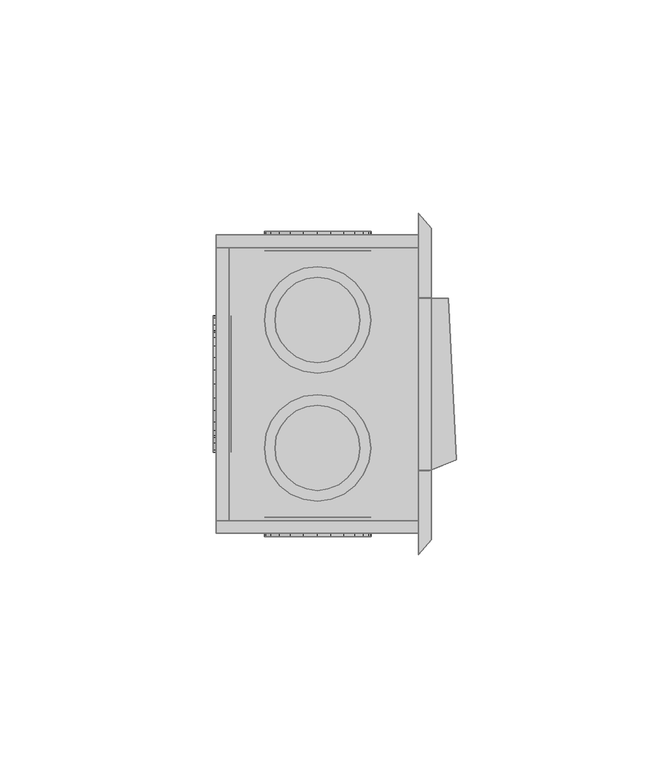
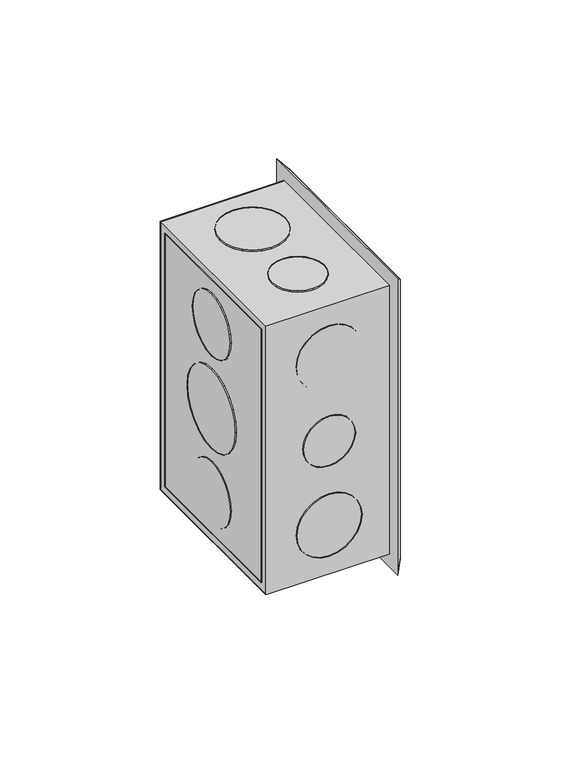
"""IFC4 building model written with IfcOpenShell, lengths in millimetres: proxy geometry,  210949 :  210949."""

from ifc_helpers import new_model, si_unit, origin, place, context, project, spatial, triangles, source, transform, mapped, element, save


def generic_models_a21df155(model_context):
    return source(origin(), model_context, "Body", "Tessellation", [
        triangles([(6623.3997849, 27447.1990723, 1254.3000378), (6623.3997849, 27444.1992554, 1148.7000154), (6623.3997849, 27447.1990723, 1145.6999805), (6623.3997849, 27444.1992554, 1251.2999302), (6623.3997849, 27377.2010193, 1254.3000378), (6623.3997849, 27380.2008362, 1251.2999302), (6623.3997849, 27377.2010193, 1145.6999805), (6623.3997849, 27380.2008362, 1148.7000154), (6575.8997772, 27444.1992554, 1251.2999302), (6575.8997772, 27444.1992554, 1148.7000154), (6575.8997772, 27377.2010193, 1254.3000378), (6575.8997772, 27377.2010193, 1145.6999805), (6575.8997772, 27380.2008362, 1251.2999302), (6575.8997772, 27447.1990723, 1145.6999805), (6575.8997772, 27380.2008362, 1148.7000154), (6575.8997772, 27447.1990723, 1254.3000378), (6578.9001755, 27444.1992554, 1251.2999302), (6578.9001755, 27380.2008362, 1148.7000154), (6578.9001755, 27444.1992554, 1148.7000154), (6578.9001755, 27380.2008362, 1251.2999302), (6579.400145, 27426.1003601, 1191.9999887), (6579.400145, 27420.2007202, 1186.0999855), (6579.400145, 27423.5005188, 1188.6999722), (6579.400145, 27427.7002625, 1195.8999687), (6579.400145, 27416.4009521, 1184.5000105), (6579.400145, 27428.2002319, 1200.0000092), (6579.400145, 27412.1988831, 1183.9999683), (6579.400145, 27427.7002625, 1204.0999769), (6579.400145, 27408.0991333, 1184.5000105), (6579.400145, 27426.1003601, 1208.0000296), (6579.400145, 27404.1993713, 1186.0999855), (6579.400145, 27423.5005188, 1211.2999735), (6579.400145, 27400.8995728, 1188.6999722), (6579.400145, 27420.2007202, 1213.9000328), (6579.400145, 27398.3997253, 1191.9999887), (6579.400145, 27416.4009521, 1215.5000078), (6579.400145, 27396.799823, 1195.8999687), (6579.400145, 27412.1988831, 1215.9999773), (6579.400145, 27396.1998596, 1200.0000092), (6579.400145, 27408.0991333, 1215.5000078), (6579.400145, 27396.799823, 1204.0999769), (6579.400145, 27404.1993713, 1213.9000328), (6579.400145, 27398.3997253, 1208.0000296), (6579.400145, 27400.8995728, 1211.2999735), (6575.1998199, 27408.0991333, 1184.5000105), (6575.1998199, 27412.1988831, 1183.9999683), (6575.1998199, 27416.4009521, 1184.5000105), (6575.1998199, 27420.2007202, 1186.0999855), (6575.1998199, 27423.5005188, 1188.6999722), (6575.1998199, 27426.1003601, 1191.9999887), (6575.1998199, 27427.7002625, 1195.8999687), (6575.1998199, 27428.2002319, 1200.0000092), (6575.1998199, 27427.7002625, 1204.0999769), (6575.1998199, 27426.1003601, 1208.0000296), (6575.1998199, 27423.5005188, 1211.2999735), (6575.1998199, 27420.2007202, 1213.9000328), (6575.1998199, 27416.4009521, 1215.5000078), (6575.1998199, 27412.1988831, 1215.9999773), (6575.1998199, 27408.0991333, 1215.5000078), (6575.1998199, 27404.1993713, 1213.9000328), (6575.1998199, 27400.8995728, 1211.2999735), (6575.1998199, 27398.3997253, 1208.0000296), (6575.1998199, 27396.799823, 1204.0999769), (6575.1998199, 27396.1998596, 1200.0000092), (6575.1998199, 27396.799823, 1195.8999687), (6575.1998199, 27398.3997253, 1191.9999887), (6575.1998199, 27400.8995728, 1188.6999722), (6575.1998199, 27404.1993713, 1186.0999855), (6579.400145, 27423.1005432, 1227.8000565), (6579.400145, 27418.500824, 1223.2000465), (6579.400145, 27421.1006653, 1225.2000698), (6579.400145, 27424.30047, 1230.8000187), (6579.400145, 27415.5010071, 1221.8999805), (6579.400145, 27424.7004456, 1233.9999687), (6579.400145, 27412.1988831, 1221.500005), (6579.400145, 27424.30047, 1237.2000641), (6579.400145, 27408.9990784, 1221.8999805), (6579.400145, 27423.1005432, 1240.3000202), (6579.400145, 27405.9992615, 1223.2000465), (6579.400145, 27421.1006653, 1242.800013), (6579.400145, 27403.3994202, 1225.2000698), (6579.400145, 27401.3995422, 1227.8000565), (6579.400145, 27418.500824, 1244.8000362), (6579.400145, 27415.5010071, 1246.0999569), (6579.400145, 27400.1996155, 1230.8000187), (6579.400145, 27412.1988831, 1246.4999325), (6579.400145, 27399.699646, 1233.9999687), (6579.400145, 27408.9990784, 1246.0999569), (6579.400145, 27400.1996155, 1237.2000641), (6579.400145, 27401.3995422, 1240.3000202), (6579.400145, 27405.9992615, 1244.8000362), (6579.400145, 27403.3994202, 1242.800013), (6575.1998199, 27400.1996155, 1230.8000187), (6575.1998199, 27401.3995422, 1227.8000565), (6575.1998199, 27403.3994202, 1225.2000698), (6575.1998199, 27405.9992615, 1223.2000465), (6575.1998199, 27408.9990784, 1221.8999805), (6575.1998199, 27412.1988831, 1221.500005), (6575.1998199, 27415.5010071, 1221.8999805), (6575.1998199, 27418.500824, 1223.2000465), (6575.1998199, 27421.1006653, 1225.2000698), (6575.1998199, 27423.1005432, 1227.8000565), (6575.1998199, 27424.30047, 1230.8000187), (6575.1998199, 27424.7004456, 1233.9999687), (6575.1998199, 27424.30047, 1237.2000641), (6575.1998199, 27423.1005432, 1240.3000202), (6575.1998199, 27421.1006653, 1242.800013), (6575.1998199, 27418.500824, 1244.8000362), (6575.1998199, 27415.5010071, 1246.0999569), (6575.1998199, 27412.1988831, 1246.4999325), (6575.1998199, 27408.9990784, 1246.0999569), (6575.1998199, 27405.9992615, 1244.8000362), (6575.1998199, 27403.3994202, 1242.800013), (6575.1998199, 27401.3995422, 1240.3000202), (6575.1998199, 27400.1996155, 1237.2000641), (6575.1998199, 27399.699646, 1233.9999687), (6575.1998199, 27418.500824, 1155.1999821), (6575.1998199, 27423.1005432, 1159.6999981), (6575.1998199, 27421.1006653, 1157.2000053), (6575.1998199, 27415.5010071, 1153.8999887), (6575.1998199, 27424.30047, 1162.8000269), (6575.1998199, 27412.1988831, 1153.5000132), (6575.1998199, 27424.7004456, 1165.9999769), (6575.1998199, 27408.9990784, 1153.8999887), (6575.1998199, 27424.30047, 1169.1999996), (6575.1998199, 27405.9992615, 1155.1999821), (6575.1998199, 27423.1005432, 1172.2000345), (6575.1998199, 27403.3994202, 1157.2000053), (6575.1998199, 27421.1006653, 1174.8000212), (6575.1998199, 27401.3995422, 1159.6999981), (6575.1998199, 27418.500824, 1176.7999718), (6575.1998199, 27400.1996155, 1162.8000269), (6575.1998199, 27415.5010071, 1178.0999651), (6575.1998199, 27412.1988831, 1178.5000134), (6575.1998199, 27399.699646, 1165.9999769), (6575.1998199, 27400.1996155, 1169.1999996), (6575.1998199, 27408.9990784, 1178.0999651), (6575.1998199, 27401.3995422, 1172.2000345), (6575.1998199, 27405.9992615, 1176.7999718), (6575.1998199, 27403.3994202, 1174.8000212), (6579.400145, 27415.5010071, 1178.0999651), (6579.400145, 27412.1988831, 1178.5000134), (6579.400145, 27418.500824, 1176.7999718), (6579.400145, 27421.1006653, 1174.8000212), (6579.400145, 27423.1005432, 1172.2000345), (6579.400145, 27424.30047, 1169.1999996), (6579.400145, 27424.7004456, 1165.9999769), (6579.400145, 27424.30047, 1162.8000269), (6579.400145, 27423.1005432, 1159.6999981), (6579.400145, 27421.1006653, 1157.2000053), (6579.400145, 27418.500824, 1155.1999821), (6579.400145, 27415.5010071, 1153.8999887), (6579.400145, 27412.1988831, 1153.5000132), (6579.400145, 27408.9990784, 1153.8999887), (6579.400145, 27405.9992615, 1155.1999821), (6579.400145, 27403.3994202, 1157.2000053), (6579.400145, 27401.3995422, 1159.6999981), (6579.400145, 27400.1996155, 1162.8000269), (6579.400145, 27399.699646, 1165.9999769), (6579.400145, 27400.1996155, 1169.1999996), (6579.400145, 27401.3995422, 1172.2000345), (6579.400145, 27403.3994202, 1174.8000212), (6579.400145, 27405.9992615, 1176.7999718), (6579.400145, 27408.9990784, 1178.0999651), (6594.6997925, 27443.3993042, 1191.3000315), (6591.0000183, 27443.3993042, 1195.0000237), (6592.5999207, 27443.3993042, 1192.9000065), (6590.0000793, 27443.3993042, 1197.4000225), (6597.1002274, 27443.3993042, 1190.3000198), (6589.7000977, 27443.3993042, 1200.0000092), (6599.7000687, 27443.3993042, 1189.9999655), (6602.1999161, 27443.3993042, 1190.3000198), (6590.0000793, 27443.3993042, 1202.5999958), (6591.0000183, 27443.3993042, 1204.9999947), (6604.6997635, 27443.3993042, 1191.3000315), (6592.5999207, 27443.3993042, 1207.1000118), (6606.7002228, 27443.3993042, 1192.9000065), (6608.3001251, 27443.3993042, 1195.0000237), (6594.6997925, 27443.3993042, 1208.6999868), (6609.3000641, 27443.3993042, 1197.4000225), (6597.1002274, 27443.3993042, 1209.6999985), (6609.7000397, 27443.3993042, 1200.0000092), (6599.7000687, 27443.3993042, 1209.9999802), (6609.3000641, 27443.3993042, 1202.5999958), (6602.1999161, 27443.3993042, 1209.6999985), (6604.6997635, 27443.3993042, 1208.6999868), (6608.3001251, 27443.3993042, 1204.9999947), (6606.7002228, 27443.3993042, 1207.1000118), (6599.7000687, 27447.9990234, 1189.9999655), (6597.1002274, 27447.9990234, 1190.3000198), (6602.1999161, 27447.9990234, 1190.3000198), (6604.6997635, 27447.9990234, 1191.3000315), (6606.7002228, 27447.9990234, 1192.9000065), (6608.3001251, 27447.9990234, 1195.0000237), (6609.3000641, 27447.9990234, 1197.4000225), (6609.7000397, 27447.9990234, 1200.0000092), (6609.3000641, 27447.9990234, 1202.5999958), (6608.3001251, 27447.9990234, 1204.9999947), (6606.7002228, 27447.9990234, 1207.1000118), (6604.6997635, 27447.9990234, 1208.6999868), (6602.1999161, 27447.9990234, 1209.6999985), (6599.7000687, 27447.9990234, 1209.9999802), (6597.1002274, 27447.9990234, 1209.6999985), (6594.6997925, 27447.9990234, 1208.6999868), (6592.5999207, 27447.9990234, 1207.1000118), (6591.0000183, 27447.9990234, 1204.9999947), (6590.0000793, 27447.9990234, 1202.5999958), (6589.7000977, 27447.9990234, 1200.0000092), (6590.0000793, 27447.9990234, 1197.4000225), (6591.0000183, 27447.9990234, 1195.0000237), (6592.5999207, 27447.9990234, 1192.9000065), (6594.6997925, 27447.9990234, 1191.3000315), (6593.3998718, 27443.3993042, 1223.2000465), (6588.8001526, 27443.3993042, 1227.8000565), (6590.8000305, 27443.3993042, 1225.2000698), (6596.4002701, 27443.3993042, 1221.8999805), (6587.6002258, 27443.3993042, 1230.8000187), (6587.2002502, 27443.3993042, 1233.9999687), (6599.7000687, 27443.3993042, 1221.500005), (6602.8998734, 27443.3993042, 1221.8999805), (6587.6002258, 27443.3993042, 1237.2000641), (6588.8001526, 27443.3993042, 1240.3000202), (6605.9002716, 27443.3993042, 1223.2000465), (6608.5001129, 27443.3993042, 1225.2000698), (6590.8000305, 27443.3993042, 1242.800013), (6610.4999908, 27443.3993042, 1227.8000565), (6593.3998718, 27443.3993042, 1244.8000362), (6611.6999176, 27443.3993042, 1230.8000187), (6596.4002701, 27443.3993042, 1246.0999569), (6612.1998871, 27443.3993042, 1233.9999687), (6599.7000687, 27443.3993042, 1246.4999325), (6611.6999176, 27443.3993042, 1237.2000641), (6602.8998734, 27443.3993042, 1246.0999569), (6610.4999908, 27443.3993042, 1240.3000202), (6605.9002716, 27443.3993042, 1244.8000362), (6608.5001129, 27443.3993042, 1242.800013), (6599.7000687, 27447.9990234, 1221.500005), (6596.4002701, 27447.9990234, 1221.8999805), (6602.8998734, 27447.9990234, 1221.8999805), (6605.9002716, 27447.9990234, 1223.2000465), (6608.5001129, 27447.9990234, 1225.2000698), (6610.4999908, 27447.9990234, 1227.8000565), (6611.6999176, 27447.9990234, 1230.8000187), (6612.1998871, 27447.9990234, 1233.9999687), (6611.6999176, 27447.9990234, 1237.2000641), (6610.4999908, 27447.9990234, 1240.3000202), (6608.5001129, 27447.9990234, 1242.800013), (6605.9002716, 27447.9990234, 1244.8000362), (6602.8998734, 27447.9990234, 1246.0999569), (6599.7000687, 27447.9990234, 1246.4999325), (6596.4002701, 27447.9990234, 1246.0999569), (6593.3998718, 27447.9990234, 1244.8000362), (6590.8000305, 27447.9990234, 1242.800013), (6588.8001526, 27447.9990234, 1240.3000202), (6587.6002258, 27447.9990234, 1237.2000641), (6587.2002502, 27447.9990234, 1233.9999687), (6587.6002258, 27447.9990234, 1230.8000187), (6588.8001526, 27447.9990234, 1227.8000565), (6590.8000305, 27447.9990234, 1225.2000698), (6593.3998718, 27447.9990234, 1223.2000465), (6588.8001526, 27447.9990234, 1159.6999981), (6593.3998718, 27447.9990234, 1155.1999821), (6590.8000305, 27447.9990234, 1157.2000053), (6587.6002258, 27447.9990234, 1162.8000269), (6596.4002701, 27447.9990234, 1153.8999887), (6587.2002502, 27447.9990234, 1165.9999769), (6599.7000687, 27447.9990234, 1153.5000132), (6587.6002258, 27447.9990234, 1169.1999996), (6602.8998734, 27447.9990234, 1153.8999887), (6588.8001526, 27447.9990234, 1172.2000345), (6605.9002716, 27447.9990234, 1155.1999821), (6590.8000305, 27447.9990234, 1174.8000212), (6608.5001129, 27447.9990234, 1157.2000053), (6593.3998718, 27447.9990234, 1176.7999718), (6610.4999908, 27447.9990234, 1159.6999981), (6596.4002701, 27447.9990234, 1178.0999651), (6611.6999176, 27447.9990234, 1162.8000269), (6599.7000687, 27447.9990234, 1178.5000134), (6612.1998871, 27447.9990234, 1165.9999769), (6602.8998734, 27447.9990234, 1178.0999651), (6611.6999176, 27447.9990234, 1169.1999996), (6605.9002716, 27447.9990234, 1176.7999718), (6610.4999908, 27447.9990234, 1172.2000345), (6608.5001129, 27447.9990234, 1174.8000212), (6596.4002701, 27443.3993042, 1178.0999651), (6599.7000687, 27443.3993042, 1178.5000134), (6602.8998734, 27443.3993042, 1178.0999651), (6605.9002716, 27443.3993042, 1176.7999718), (6608.5001129, 27443.3993042, 1174.8000212), (6610.4999908, 27443.3993042, 1172.2000345), (6611.6999176, 27443.3993042, 1169.1999996), (6612.1998871, 27443.3993042, 1165.9999769), (6611.6999176, 27443.3993042, 1162.8000269), (6610.4999908, 27443.3993042, 1159.6999981), (6608.5001129, 27443.3993042, 1157.2000053), (6605.9002716, 27443.3993042, 1155.1999821), (6602.8998734, 27443.3993042, 1153.8999887), (6599.7000687, 27443.3993042, 1153.5000132), (6596.4002701, 27443.3993042, 1153.8999887), (6593.3998718, 27443.3993042, 1155.1999821), (6590.8000305, 27443.3993042, 1157.2000053), (6588.8001526, 27443.3993042, 1159.6999981), (6587.6002258, 27443.3993042, 1162.8000269), (6587.2002502, 27443.3993042, 1165.9999769), (6587.6002258, 27443.3993042, 1169.1999996), (6588.8001526, 27443.3993042, 1172.2000345), (6590.8000305, 27443.3993042, 1174.8000212), (6593.3998718, 27443.3993042, 1176.7999718), (6591.0000183, 27381.0007874, 1195.0000237), (6594.6997925, 27381.0007874, 1191.3000315), (6592.5999207, 27381.0007874, 1192.9000065), (6590.0000793, 27381.0007874, 1197.4000225), (6597.1002274, 27381.0007874, 1190.3000198), (6589.7000977, 27381.0007874, 1200.0000092), (6599.7000687, 27381.0007874, 1189.9999655), (6590.0000793, 27381.0007874, 1202.5999958), (6602.1999161, 27381.0007874, 1190.3000198), (6591.0000183, 27381.0007874, 1204.9999947), (6604.6997635, 27381.0007874, 1191.3000315), (6592.5999207, 27381.0007874, 1207.1000118), (6606.7002228, 27381.0007874, 1192.9000065), (6594.6997925, 27381.0007874, 1208.6999868), (6608.3001251, 27381.0007874, 1195.0000237), (6597.1002274, 27381.0007874, 1209.6999985), (6609.3000641, 27381.0007874, 1197.4000225), (6609.7000397, 27381.0007874, 1200.0000092), (6599.7000687, 27381.0007874, 1209.9999802), (6602.1999161, 27381.0007874, 1209.6999985), (6609.3000641, 27381.0007874, 1202.5999958), (6604.6997635, 27381.0007874, 1208.6999868), (6608.3001251, 27381.0007874, 1204.9999947), (6606.7002228, 27381.0007874, 1207.1000118), (6597.1002274, 27376.4010681, 1209.6999985), (6599.7000687, 27376.4010681, 1209.9999802), (6602.1999161, 27376.4010681, 1209.6999985), (6604.6997635, 27376.4010681, 1208.6999868), (6606.7002228, 27376.4010681, 1207.1000118), (6608.3001251, 27376.4010681, 1204.9999947), (6609.3000641, 27376.4010681, 1202.5999958), (6609.7000397, 27376.4010681, 1200.0000092), (6609.3000641, 27376.4010681, 1197.4000225), (6608.3001251, 27376.4010681, 1195.0000237), (6606.7002228, 27376.4010681, 1192.9000065), (6604.6997635, 27376.4010681, 1191.3000315), (6602.1999161, 27376.4010681, 1190.3000198), (6599.7000687, 27376.4010681, 1189.9999655), (6597.1002274, 27376.4010681, 1190.3000198), (6594.6997925, 27376.4010681, 1191.3000315), (6592.5999207, 27376.4010681, 1192.9000065), (6591.0000183, 27376.4010681, 1195.0000237), (6590.0000793, 27376.4010681, 1197.4000225), (6589.7000977, 27376.4010681, 1200.0000092), (6590.0000793, 27376.4010681, 1202.5999958), (6591.0000183, 27376.4010681, 1204.9999947), (6592.5999207, 27376.4010681, 1207.1000118), (6594.6997925, 27376.4010681, 1208.6999868), (6588.8001526, 27381.0007874, 1159.6999981), (6593.3998718, 27381.0007874, 1155.1999821), (6590.8000305, 27381.0007874, 1157.2000053), (6587.6002258, 27381.0007874, 1162.8000269), (6596.4002701, 27381.0007874, 1153.8999887), (6587.2002502, 27381.0007874, 1165.9999769), (6599.7000687, 27381.0007874, 1153.5000132), (6587.6002258, 27381.0007874, 1169.1999996), (6602.8998734, 27381.0007874, 1153.8999887), (6588.8001526, 27381.0007874, 1172.2000345), (6605.9002716, 27381.0007874, 1155.1999821), (6590.8000305, 27381.0007874, 1174.8000212), (6608.5001129, 27381.0007874, 1157.2000053), (6593.3998718, 27381.0007874, 1176.7999718), (6610.4999908, 27381.0007874, 1159.6999981), (6596.4002701, 27381.0007874, 1178.0999651), (6611.6999176, 27381.0007874, 1162.8000269), (6599.7000687, 27381.0007874, 1178.5000134), (6612.1998871, 27381.0007874, 1165.9999769), (6602.8998734, 27381.0007874, 1178.0999651), (6611.6999176, 27381.0007874, 1169.1999996), (6605.9002716, 27381.0007874, 1176.7999718), (6610.4999908, 27381.0007874, 1172.2000345), (6608.5001129, 27381.0007874, 1174.8000212), (6596.4002701, 27376.4010681, 1178.0999651), (6599.7000687, 27376.4010681, 1178.5000134), (6602.8998734, 27376.4010681, 1178.0999651), (6605.9002716, 27376.4010681, 1176.7999718), (6608.5001129, 27376.4010681, 1174.8000212), (6610.4999908, 27376.4010681, 1172.2000345), (6611.6999176, 27376.4010681, 1169.1999996), (6612.1998871, 27376.4010681, 1165.9999769), (6611.6999176, 27376.4010681, 1162.8000269), (6610.4999908, 27376.4010681, 1159.6999981), (6608.5001129, 27376.4010681, 1157.2000053), (6605.9002716, 27376.4010681, 1155.1999821), (6602.8998734, 27376.4010681, 1153.8999887), (6599.7000687, 27376.4010681, 1153.5000132), (6596.4002701, 27376.4010681, 1153.8999887), (6593.3998718, 27376.4010681, 1155.1999821), (6590.8000305, 27376.4010681, 1157.2000053), (6588.8001526, 27376.4010681, 1159.6999981), (6587.6002258, 27376.4010681, 1162.8000269), (6587.2002502, 27376.4010681, 1165.9999769), (6587.6002258, 27376.4010681, 1169.1999996), (6588.8001526, 27376.4010681, 1172.2000345), (6590.8000305, 27376.4010681, 1174.8000212), (6593.3998718, 27376.4010681, 1176.7999718), (6593.3998718, 27376.4010681, 1223.2000465), (6588.8001526, 27376.4010681, 1227.8000565), (6590.8000305, 27376.4010681, 1225.2000698), (6596.4002701, 27376.4010681, 1221.8999805), (6587.6002258, 27376.4010681, 1230.8000187), (6587.2002502, 27376.4010681, 1233.9999687), (6599.7000687, 27376.4010681, 1221.500005), (6602.8998734, 27376.4010681, 1221.8999805), (6587.6002258, 27376.4010681, 1237.2000641), (6588.8001526, 27376.4010681, 1240.3000202), (6605.9002716, 27376.4010681, 1223.2000465), (6608.5001129, 27376.4010681, 1225.2000698), (6590.8000305, 27376.4010681, 1242.800013), (6610.4999908, 27376.4010681, 1227.8000565), (6593.3998718, 27376.4010681, 1244.8000362), (6611.6999176, 27376.4010681, 1230.8000187), (6596.4002701, 27376.4010681, 1246.0999569), (6612.1998871, 27376.4010681, 1233.9999687), (6599.7000687, 27376.4010681, 1246.4999325), (6611.6999176, 27376.4010681, 1237.2000641), (6602.8998734, 27376.4010681, 1246.0999569), (6610.4999908, 27376.4010681, 1240.3000202), (6605.9002716, 27376.4010681, 1244.8000362), (6608.5001129, 27376.4010681, 1242.800013), (6599.7000687, 27381.0007874, 1221.500005), (6596.4002701, 27381.0007874, 1221.8999805), (6602.8998734, 27381.0007874, 1221.8999805), (6605.9002716, 27381.0007874, 1223.2000465), (6608.5001129, 27381.0007874, 1225.2000698), (6610.4999908, 27381.0007874, 1227.8000565), (6611.6999176, 27381.0007874, 1230.8000187), (6612.1998871, 27381.0007874, 1233.9999687), (6611.6999176, 27381.0007874, 1237.2000641), (6610.4999908, 27381.0007874, 1240.3000202), (6608.5001129, 27381.0007874, 1242.800013), (6605.9002716, 27381.0007874, 1244.8000362), (6602.8998734, 27381.0007874, 1246.0999569), (6599.7000687, 27381.0007874, 1246.4999325), (6596.4002701, 27381.0007874, 1246.0999569), (6593.3998718, 27381.0007874, 1244.8000362), (6590.8000305, 27381.0007874, 1242.800013), (6588.8001526, 27381.0007874, 1240.3000202), (6587.6002258, 27381.0007874, 1237.2000641), (6587.2002502, 27381.0007874, 1233.9999687), (6587.6002258, 27381.0007874, 1230.8000187), (6588.8001526, 27381.0007874, 1227.8000565), (6590.8000305, 27381.0007874, 1225.2000698), (6593.3998718, 27381.0007874, 1223.2000465), (6593.3998718, 27438.0996277, 1250.9999485), (6588.8001526, 27433.4999084, 1250.9999485), (6590.8000305, 27436.0997498, 1250.9999485), (6596.4002701, 27439.2995544, 1250.9999485), (6587.6002258, 27430.5000916, 1250.9999485), (6587.2002502, 27427.200293, 1250.9999485), (6599.7000687, 27439.69953, 1250.9999485), (6602.8998734, 27439.2995544, 1250.9999485), (6587.6002258, 27424.0004883, 1250.9999485), (6588.8001526, 27421.0006714, 1250.9999485), (6605.9002716, 27438.0996277, 1250.9999485), (6608.5001129, 27436.0997498, 1250.9999485), (6590.8000305, 27418.4008301, 1250.9999485), (6593.3998718, 27416.4009521, 1250.9999485), (6610.4999908, 27433.4999084, 1250.9999485), (6611.6999176, 27430.5000916, 1250.9999485), (6596.4002701, 27415.2010254, 1250.9999485), (6612.1998871, 27427.200293, 1250.9999485), (6599.7000687, 27414.7010559, 1250.9999485), (6611.6999176, 27424.0004883, 1250.9999485), (6602.8998734, 27415.2010254, 1250.9999485), (6605.9002716, 27416.4009521, 1250.9999485), (6610.4999908, 27421.0006714, 1250.9999485), (6608.5001129, 27418.4008301, 1250.9999485), (6587.2002502, 27427.200293, 1255.1999828), (6587.6002258, 27424.0004883, 1255.1999828), (6587.6002258, 27430.5000916, 1255.1999828), (6588.8001526, 27433.4999084, 1255.1999828), (6590.8000305, 27436.0997498, 1255.1999828), (6593.3998718, 27438.0996277, 1255.1999828), (6596.4002701, 27439.2995544, 1255.1999828), (6599.7000687, 27439.69953, 1255.1999828), (6602.8998734, 27439.2995544, 1255.1999828), (6605.9002716, 27438.0996277, 1255.1999828), (6608.5001129, 27436.0997498, 1255.1999828), (6610.4999908, 27433.4999084, 1255.1999828), (6611.6999176, 27430.5000916, 1255.1999828), (6612.1998871, 27427.200293, 1255.1999828), (6611.6999176, 27424.0004883, 1255.1999828), (6610.4999908, 27421.0006714, 1255.1999828), (6608.5001129, 27418.4008301, 1255.1999828), (6605.9002716, 27416.4009521, 1255.1999828), (6602.8998734, 27415.2010254, 1255.1999828), (6599.7000687, 27414.7010559, 1255.1999828), (6596.4002701, 27415.2010254, 1255.1999828), (6593.3998718, 27416.4009521, 1255.1999828), (6590.8000305, 27418.4008301, 1255.1999828), (6588.8001526, 27421.0006714, 1255.1999828), (6594.6997925, 27405.8992676, 1250.9999485), (6591.0000183, 27402.1994934, 1250.9999485), (6592.5999207, 27404.2993652, 1250.9999485), (6590.0000793, 27399.7996399, 1250.9999485), (6597.1002274, 27406.8992065, 1250.9999485), (6589.7000977, 27397.1997986, 1250.9999485), (6599.7000687, 27407.1991882, 1250.9999485), (6602.1999161, 27406.8992065, 1250.9999485), (6590.0000793, 27394.5999573, 1250.9999485), (6591.0000183, 27392.2001038, 1250.9999485), (6604.6997635, 27405.8992676, 1250.9999485), (6592.5999207, 27390.2002258, 1250.9999485), (6606.7002228, 27404.2993652, 1250.9999485), (6608.3001251, 27402.1994934, 1250.9999485), (6594.6997925, 27388.6003235, 1250.9999485), (6597.1002274, 27387.6003845, 1250.9999485), (6609.3000641, 27399.7996399, 1250.9999485), (6609.7000397, 27397.1997986, 1250.9999485), (6599.7000687, 27387.2004089, 1250.9999485), (6609.3000641, 27394.5999573, 1250.9999485), (6602.1999161, 27387.6003845, 1250.9999485), (6608.3001251, 27392.2001038, 1250.9999485), (6604.6997635, 27388.6003235, 1250.9999485), (6606.7002228, 27390.2002258, 1250.9999485), (6590.0000793, 27394.5999573, 1255.1999828), (6591.0000183, 27392.2001038, 1255.1999828), (6589.7000977, 27397.1997986, 1255.1999828), (6590.0000793, 27399.7996399, 1255.1999828), (6591.0000183, 27402.1994934, 1255.1999828), (6592.5999207, 27404.2993652, 1255.1999828), (6594.6997925, 27405.8992676, 1255.1999828), (6597.1002274, 27406.8992065, 1255.1999828), (6599.7000687, 27407.1991882, 1255.1999828), (6602.1999161, 27406.8992065, 1255.1999828), (6604.6997635, 27405.8992676, 1255.1999828), (6606.7002228, 27404.2993652, 1255.1999828), (6608.3001251, 27402.1994934, 1255.1999828), (6609.3000641, 27399.7996399, 1255.1999828), (6609.7000397, 27397.1997986, 1255.1999828), (6609.3000641, 27394.5999573, 1255.1999828), (6608.3001251, 27392.2001038, 1255.1999828), (6606.7002228, 27390.2002258, 1255.1999828), (6604.6997635, 27388.6003235, 1255.1999828), (6602.1999161, 27387.6003845, 1255.1999828), (6599.7000687, 27387.2004089, 1255.1999828), (6597.1002274, 27387.6003845, 1255.1999828), (6594.6997925, 27388.6003235, 1255.1999828), (6592.5999207, 27390.2002258, 1255.1999828), (6594.6997925, 27435.899762, 1144.8000355), (6591.0000183, 27432.1999878, 1144.8000355), (6592.5999207, 27434.2998596, 1144.8000355), (6590.0000793, 27429.8001343, 1144.8000355), (6597.1002274, 27436.8997009, 1144.8000355), (6589.7000977, 27427.200293, 1144.8000355), (6599.7000687, 27437.1996826, 1144.8000355), (6602.1999161, 27436.8997009, 1144.8000355), (6590.0000793, 27424.6004517, 1144.8000355), (6591.0000183, 27422.2005981, 1144.8000355), (6604.6997635, 27435.899762, 1144.8000355), (6592.5999207, 27420.2007202, 1144.8000355), (6606.7002228, 27434.2998596, 1144.8000355), (6608.3001251, 27432.1999878, 1144.8000355), (6594.6997925, 27418.6008179, 1144.8000355), (6597.1002274, 27417.6008789, 1144.8000355), (6609.3000641, 27429.8001343, 1144.8000355), (6609.7000397, 27427.200293, 1144.8000355), (6599.7000687, 27417.2009033, 1144.8000355), (6609.3000641, 27424.6004517, 1144.8000355), (6602.1999161, 27417.6008789, 1144.8000355), (6608.3001251, 27422.2005981, 1144.8000355), (6604.6997635, 27418.6008179, 1144.8000355), (6606.7002228, 27420.2007202, 1144.8000355), (6590.0000793, 27429.8001343, 1149.099991), (6589.7000977, 27427.200293, 1149.099991), (6591.0000183, 27432.1999878, 1149.099991), (6592.5999207, 27434.2998596, 1149.099991), (6594.6997925, 27435.899762, 1149.099991), (6597.1002274, 27436.8997009, 1149.099991), (6599.7000687, 27437.1996826, 1149.099991), (6602.1999161, 27436.8997009, 1149.099991), (6604.6997635, 27435.899762, 1149.099991), (6606.7002228, 27434.2998596, 1149.099991), (6608.3001251, 27432.1999878, 1149.099991), (6609.3000641, 27429.8001343, 1149.099991), (6609.7000397, 27427.200293, 1149.099991), (6609.3000641, 27424.6004517, 1149.099991), (6608.3001251, 27422.2005981, 1149.099991), (6606.7002228, 27420.2007202, 1149.099991), (6604.6997635, 27418.6008179, 1149.099991), (6602.1999161, 27417.6008789, 1149.099991), (6599.7000687, 27417.2009033, 1149.099991), (6597.1002274, 27417.6008789, 1149.099991), (6594.6997925, 27418.6008179, 1149.099991), (6592.5999207, 27420.2007202, 1149.099991), (6591.0000183, 27422.2005981, 1149.099991), (6590.0000793, 27424.6004517, 1149.099991), (6593.3998718, 27408.0991333, 1144.8000355), (6588.8001526, 27403.4994141, 1144.8000355), (6590.8000305, 27406.0992554, 1144.8000355), (6596.4002701, 27409.2990601, 1144.8000355), (6587.6002258, 27400.4995972, 1144.8000355), (6587.2002502, 27397.1997986, 1144.8000355), (6599.7000687, 27409.6990356, 1144.8000355), (6602.8998734, 27409.2990601, 1144.8000355), (6587.6002258, 27393.9999939, 1144.8000355), (6588.8001526, 27391.000177, 1144.8000355), (6605.9002716, 27408.0991333, 1144.8000355), (6608.5001129, 27406.0992554, 1144.8000355), (6590.8000305, 27388.4003357, 1144.8000355), (6593.3998718, 27386.4004578, 1144.8000355), (6610.4999908, 27403.4994141, 1144.8000355), (6611.6999176, 27400.4995972, 1144.8000355), (6596.4002701, 27385.200531, 1144.8000355), (6612.1998871, 27397.1997986, 1144.8000355), (6599.7000687, 27384.7005615, 1144.8000355), (6611.6999176, 27393.9999939, 1144.8000355), (6602.8998734, 27385.200531, 1144.8000355), (6605.9002716, 27386.4004578, 1144.8000355), (6610.4999908, 27391.000177, 1144.8000355), (6608.5001129, 27388.4003357, 1144.8000355), (6587.6002258, 27393.9999939, 1149.099991), (6588.8001526, 27391.000177, 1149.099991), (6587.2002502, 27397.1997986, 1149.099991), (6587.6002258, 27400.4995972, 1149.099991), (6588.8001526, 27403.4994141, 1149.099991), (6590.8000305, 27406.0992554, 1149.099991), (6593.3998718, 27408.0991333, 1149.099991), (6596.4002701, 27409.2990601, 1149.099991), (6599.7000687, 27409.6990356, 1149.099991), (6602.8998734, 27409.2990601, 1149.099991), (6605.9002716, 27408.0991333, 1149.099991), (6608.5001129, 27406.0992554, 1149.099991), (6610.4999908, 27403.4994141, 1149.099991), (6611.6999176, 27400.4995972, 1149.099991), (6612.1998871, 27397.1997986, 1149.099991), (6611.6999176, 27393.9999939, 1149.099991), (6610.4999908, 27391.000177, 1149.099991), (6608.5001129, 27388.4003357, 1149.099991), (6605.9002716, 27386.4004578, 1149.099991), (6602.8998734, 27385.200531, 1149.099991), (6599.7000687, 27384.7005615, 1149.099991), (6596.4002701, 27385.200531, 1149.099991), (6593.3998718, 27386.4004578, 1149.099991), (6590.8000305, 27388.4003357, 1149.099991), (6623.3997849, 27372.198999, 1139.9999651), (6623.3997849, 27432.3999756, 1188.2999966), (6623.3997849, 27452.2010925, 1139.9999651), (6623.3997849, 27392.000116, 1188.2999966), (6623.3997849, 27372.198999, 1259.9999805), (6623.3997849, 27392.000116, 1211.7000217), (6623.3997849, 27452.2010925, 1259.9999805), (6623.3997849, 27432.3999756, 1211.7000217), (6626.4001831, 27392.000116, 1188.2999966), (6626.4001831, 27392.000116, 1211.7000217), (6626.4001831, 27432.3999756, 1188.2999966), (6626.4001831, 27432.3999756, 1211.7000217), (6626.4001831, 27448.6989807, 1143.4999695), (6626.4001831, 27448.6989807, 1256.5000488), (6626.4001831, 27375.7011108, 1143.4999695), (6626.4001831, 27375.7011108, 1256.5000488), (6630.399939, 27432.2999817, 1188.1000088), (6623.3997849, 27391.9001221, 1188.1000088), (6623.3997849, 27432.2999817, 1188.1000088), (6632.299823, 27394.4999634, 1188.1000088), (6625.9002136, 27391.9001221, 1188.1000088), (6623.3997849, 27432.2999817, 1211.500034), (6623.3997849, 27391.9001221, 1211.500034), (6630.399939, 27432.2999817, 1211.500034), (6632.299823, 27394.4999634, 1211.500034), (6625.9002136, 27391.9001221, 1211.500034)], [[1, 2, 3], [2, 1, 4], [5, 4, 1], [4, 5, 6], [3, 2, 7], [7, 2, 8], [7, 8, 6], [7, 6, 5], [2, 9, 10], [9, 2, 4], [7, 11, 12], [11, 7, 5], [4, 13, 9], [13, 4, 6], [3, 12, 14], [12, 3, 7], [13, 8, 15], [8, 13, 6], [16, 3, 14], [3, 16, 1], [15, 2, 10], [2, 15, 8], [11, 1, 16], [1, 11, 5], [12, 10, 14], [10, 12, 15], [11, 15, 12], [15, 11, 13], [14, 10, 16], [16, 10, 9], [16, 9, 13], [16, 13, 11], [17, 18, 19], [18, 17, 20], [18, 13, 15], [13, 18, 20], [19, 15, 10], [15, 19, 18], [9, 19, 10], [19, 9, 17], [13, 17, 9], [17, 13, 20], [15, 9, 10], [9, 15, 13], [21, 22, 23], [22, 21, 24], [25, 22, 24], [25, 24, 26], [27, 25, 26], [27, 26, 28], [29, 27, 28], [29, 28, 30], [31, 29, 30], [31, 30, 32], [31, 32, 33], [33, 32, 34], [33, 34, 35], [35, 34, 36], [35, 36, 37], [37, 36, 38], [37, 38, 39], [39, 38, 40], [39, 40, 41], [41, 40, 42], [41, 42, 43], [43, 42, 44], [27, 45, 46], [45, 27, 29], [25, 46, 47], [46, 25, 27], [22, 47, 48], [47, 22, 25], [23, 48, 49], [48, 23, 22], [50, 23, 49], [23, 50, 21], [51, 21, 50], [21, 51, 24], [52, 24, 51], [24, 52, 26], [53, 26, 52], [26, 53, 28], [54, 28, 53], [28, 54, 30], [55, 30, 54], [30, 55, 32], [56, 32, 55], [32, 56, 34], [57, 34, 56], [34, 57, 36], [58, 36, 57], [36, 58, 38], [59, 38, 58], [38, 59, 40], [60, 40, 59], [40, 60, 42], [61, 42, 60], [42, 61, 44], [43, 61, 62], [61, 43, 44], [41, 62, 63], [62, 41, 43], [39, 63, 64], [63, 39, 41], [37, 64, 65], [64, 37, 39], [35, 65, 66], [65, 35, 37], [33, 66, 67], [66, 33, 35], [31, 67, 68], [67, 31, 33], [29, 68, 45], [68, 29, 31], [48, 50, 49], [50, 48, 47], [51, 50, 47], [51, 47, 46], [52, 51, 46], [52, 46, 45], [53, 52, 45], [53, 45, 68], [54, 53, 68], [54, 68, 67], [54, 67, 55], [55, 67, 66], [55, 66, 56], [56, 66, 65], [56, 65, 57], [57, 65, 64], [57, 64, 58], [58, 64, 63], [58, 63, 59], [59, 63, 62], [59, 62, 60], [60, 62, 61], [69, 70, 71], [70, 69, 72], [73, 70, 72], [73, 72, 74], [75, 73, 74], [75, 74, 76], [77, 75, 76], [77, 76, 78], [79, 77, 78], [79, 78, 80], [81, 79, 80], [81, 80, 82], [82, 80, 83], [82, 83, 84], [82, 84, 85], [85, 84, 86], [85, 86, 87], [87, 86, 88], [87, 88, 89], [89, 88, 90], [90, 88, 91], [90, 91, 92], [82, 93, 94], [93, 82, 85], [81, 94, 95], [94, 81, 82], [79, 95, 96], [95, 79, 81], [77, 96, 97], [96, 77, 79], [75, 97, 98], [97, 75, 77], [73, 98, 99], [98, 73, 75], [70, 99, 100], [99, 70, 73], [71, 100, 101], [100, 71, 70], [102, 71, 101], [71, 102, 69], [103, 69, 102], [69, 103, 72], [104, 72, 103], [72, 104, 74], [105, 74, 104], [74, 105, 76], [106, 76, 105], [76, 106, 78], [107, 78, 106], [78, 107, 80], [108, 80, 107], [80, 108, 83], [109, 83, 108], [83, 109, 84], [110, 84, 109], [84, 110, 86], [111, 86, 110], [86, 111, 88], [112, 88, 111], [88, 112, 91], [113, 91, 112], [91, 113, 92], [90, 113, 114], [113, 90, 92], [89, 114, 115], [114, 89, 90], [87, 115, 116], [115, 87, 89], [85, 116, 93], [116, 85, 87], [100, 102, 101], [102, 100, 99], [103, 102, 99], [103, 99, 98], [104, 103, 98], [104, 98, 97], [105, 104, 97], [106, 105, 97], [106, 97, 96], [106, 96, 95], [106, 95, 107], [107, 95, 94], [107, 94, 108], [108, 94, 93], [108, 93, 109], [109, 93, 116], [109, 116, 110], [110, 116, 115], [110, 115, 111], [111, 115, 114], [111, 114, 112], [112, 114, 113], [117, 118, 119], [118, 117, 120], [121, 118, 120], [121, 120, 122], [123, 121, 122], [123, 122, 124], [125, 123, 124], [125, 124, 126], [127, 125, 126], [127, 126, 128], [127, 128, 129], [129, 128, 130], [129, 130, 131], [131, 130, 132], [131, 132, 133], [133, 132, 134], [134, 132, 135], [134, 135, 136], [134, 136, 137], [137, 136, 138], [137, 138, 139], [139, 138, 140], [134, 141, 133], [141, 134, 142], [133, 143, 131], [143, 133, 141], [131, 144, 129], [144, 131, 143], [129, 145, 127], [145, 129, 144], [127, 146, 125], [146, 127, 145], [125, 147, 123], [147, 125, 146], [123, 148, 121], [148, 123, 147], [121, 149, 118], [149, 121, 148], [118, 150, 119], [150, 118, 149], [150, 117, 119], [117, 150, 151], [151, 120, 117], [120, 151, 152], [152, 122, 120], [122, 152, 153], [153, 124, 122], [124, 153, 154], [154, 126, 124], [126, 154, 155], [155, 128, 126], [128, 155, 156], [156, 130, 128], [130, 156, 157], [157, 132, 130], [132, 157, 158], [158, 135, 132], [135, 158, 159], [159, 136, 135], [136, 159, 160], [160, 138, 136], [138, 160, 161], [161, 140, 138], [140, 161, 162], [140, 163, 139], [163, 140, 162], [139, 164, 137], [164, 139, 163], [137, 142, 134], [142, 137, 164], [149, 151, 150], [151, 149, 148], [152, 151, 148], [153, 152, 148], [153, 148, 147], [153, 147, 146], [154, 153, 146], [154, 146, 145], [155, 154, 145], [155, 145, 144], [156, 155, 144], [156, 144, 157], [157, 144, 143], [157, 143, 141], [157, 141, 158], [158, 141, 142], [158, 142, 159], [159, 142, 164], [159, 164, 160], [160, 164, 163], [160, 163, 161], [161, 163, 162], [165, 166, 167], [168, 166, 165], [168, 165, 169], [170, 168, 169], [170, 169, 171], [170, 171, 172], [173, 170, 172], [174, 173, 172], [174, 172, 175], [176, 174, 175], [176, 175, 177], [176, 177, 178], [176, 178, 179], [179, 178, 180], [179, 180, 181], [181, 180, 182], [181, 182, 183], [183, 182, 184], [183, 184, 185], [185, 184, 186], [186, 184, 187], [186, 187, 188], [189, 169, 190], [169, 189, 171], [191, 171, 189], [171, 191, 172], [192, 172, 191], [172, 192, 175], [193, 175, 192], [175, 193, 177], [194, 177, 193], [177, 194, 178], [195, 178, 194], [178, 195, 180], [196, 180, 195], [180, 196, 182], [197, 182, 196], [182, 197, 184], [198, 184, 197], [184, 198, 187], [199, 187, 198], [187, 199, 188], [186, 199, 200], [199, 186, 188], [185, 200, 201], [200, 185, 186], [183, 201, 202], [201, 183, 185], [181, 202, 203], [202, 181, 183], [179, 203, 204], [203, 179, 181], [176, 204, 205], [204, 176, 179], [174, 205, 206], [205, 174, 176], [173, 206, 207], [206, 173, 174], [170, 207, 208], [207, 170, 173], [168, 208, 209], [208, 168, 170], [166, 209, 210], [209, 166, 168], [167, 210, 211], [210, 167, 166], [212, 167, 211], [167, 212, 165], [190, 165, 212], [165, 190, 169], [210, 212, 211], [212, 210, 209], [190, 212, 209], [190, 209, 208], [189, 190, 208], [189, 208, 207], [191, 189, 207], [191, 207, 206], [192, 191, 206], [192, 206, 205], [192, 205, 193], [193, 205, 204], [193, 204, 194], [194, 204, 203], [194, 203, 195], [195, 203, 196], [196, 203, 202], [196, 202, 201], [196, 201, 197], [197, 201, 200], [197, 200, 198], [198, 200, 199], [213, 214, 215], [214, 213, 216], [217, 214, 216], [218, 217, 216], [218, 216, 219], [218, 219, 220], [221, 218, 220], [222, 221, 220], [222, 220, 223], [222, 223, 224], [222, 224, 225], [225, 224, 226], [225, 226, 227], [227, 226, 228], [227, 228, 229], [229, 228, 230], [229, 230, 231], [231, 230, 232], [231, 232, 233], [233, 232, 234], [233, 234, 235], [235, 234, 236], [237, 216, 238], [216, 237, 219], [239, 219, 237], [219, 239, 220], [240, 220, 239], [220, 240, 223], [241, 223, 240], [223, 241, 224], [242, 224, 241], [224, 242, 226], [243, 226, 242], [226, 243, 228], [244, 228, 243], [228, 244, 230], [245, 230, 244], [230, 245, 232], [246, 232, 245], [232, 246, 234], [247, 234, 246], [234, 247, 236], [235, 247, 248], [247, 235, 236], [233, 248, 249], [248, 233, 235], [231, 249, 250], [249, 231, 233], [229, 250, 251], [250, 229, 231], [227, 251, 252], [251, 227, 229], [225, 252, 253], [252, 225, 227], [222, 253, 254], [253, 222, 225], [221, 254, 255], [254, 221, 222], [218, 255, 256], [255, 218, 221], [217, 256, 257], [256, 217, 218], [214, 257, 258], [257, 214, 217], [215, 258, 259], [258, 215, 214], [260, 215, 259], [215, 260, 213], [238, 213, 260], [213, 238, 216], [258, 260, 259], [260, 258, 257], [238, 260, 257], [238, 257, 256], [237, 238, 256], [237, 256, 255], [239, 237, 255], [239, 255, 254], [240, 239, 254], [240, 254, 253], [241, 240, 253], [241, 253, 252], [241, 252, 242], [242, 252, 251], [242, 251, 243], [243, 251, 244], [244, 251, 250], [244, 250, 249], [244, 249, 245], [245, 249, 246], [246, 249, 248], [246, 248, 247], [261, 262, 263], [262, 261, 264], [265, 262, 264], [265, 264, 266], [267, 265, 266], [267, 266, 268], [269, 267, 268], [269, 268, 270], [271, 269, 270], [271, 270, 272], [273, 271, 272], [273, 272, 274], [273, 274, 275], [275, 274, 276], [275, 276, 277], [277, 276, 278], [277, 278, 279], [279, 278, 280], [279, 280, 281], [281, 280, 282], [281, 282, 283], [283, 282, 284], [285, 278, 276], [278, 285, 286], [286, 280, 278], [280, 286, 287], [287, 282, 280], [282, 287, 288], [288, 284, 282], [284, 288, 289], [284, 290, 283], [290, 284, 289], [283, 291, 281], [291, 283, 290], [281, 292, 279], [292, 281, 291], [279, 293, 277], [293, 279, 292], [277, 294, 275], [294, 277, 293], [275, 295, 273], [295, 275, 294], [273, 296, 271], [296, 273, 295], [271, 297, 269], [297, 271, 296], [269, 298, 267], [298, 269, 297], [267, 299, 265], [299, 267, 298], [265, 300, 262], [300, 265, 299], [262, 301, 263], [301, 262, 300], [301, 261, 263], [261, 301, 302], [302, 264, 261], [264, 302, 303], [303, 266, 264], [266, 303, 304], [304, 268, 266], [268, 304, 305], [305, 270, 268], [270, 305, 306], [306, 272, 270], [272, 306, 307], [307, 274, 272], [274, 307, 308], [308, 276, 274], [276, 308, 285], [300, 302, 301], [302, 300, 299], [303, 302, 299], [303, 299, 298], [304, 303, 298], [304, 298, 297], [305, 304, 297], [305, 297, 296], [306, 305, 296], [306, 296, 295], [306, 295, 307], [307, 295, 294], [307, 294, 308], [308, 294, 293], [308, 293, 285], [285, 293, 286], [286, 293, 292], [286, 292, 291], [286, 291, 287], [287, 291, 288], [288, 291, 290], [288, 290, 289], [309, 310, 311], [310, 309, 312], [313, 310, 312], [313, 312, 314], [315, 313, 314], [315, 314, 316], [317, 315, 316], [317, 316, 318], [319, 317, 318], [319, 318, 320], [319, 320, 321], [321, 320, 322], [321, 322, 323], [323, 322, 324], [323, 324, 325], [325, 324, 326], [326, 324, 327], [326, 327, 328], [326, 328, 329], [329, 328, 330], [329, 330, 331], [331, 330, 332], [333, 327, 324], [327, 333, 334], [334, 328, 327], [328, 334, 335], [335, 330, 328], [330, 335, 336], [336, 332, 330], [332, 336, 337], [332, 338, 331], [338, 332, 337], [331, 339, 329], [339, 331, 338], [329, 340, 326], [340, 329, 339], [326, 341, 325], [341, 326, 340], [325, 342, 323], [342, 325, 341], [323, 343, 321], [343, 323, 342], [321, 344, 319], [344, 321, 343], [319, 345, 317], [345, 319, 344], [317, 346, 315], [346, 317, 345], [315, 347, 313], [347, 315, 346], [313, 348, 310], [348, 313, 347], [310, 349, 311], [349, 310, 348], [349, 309, 311], [309, 349, 350], [350, 312, 309], [312, 350, 351], [351, 314, 312], [314, 351, 352], [352, 316, 314], [316, 352, 353], [353, 318, 316], [318, 353, 354], [354, 320, 318], [320, 354, 355], [355, 322, 320], [322, 355, 356], [356, 324, 322], [324, 356, 333], [348, 350, 349], [351, 350, 348], [351, 348, 347], [352, 351, 347], [352, 347, 346], [352, 346, 345], [353, 352, 345], [354, 353, 345], [354, 345, 344], [355, 354, 344], [355, 344, 343], [355, 343, 342], [355, 342, 356], [356, 342, 341], [356, 341, 333], [333, 341, 340], [333, 340, 334], [334, 340, 339], [334, 339, 335], [335, 339, 336], [336, 339, 338], [336, 338, 337], [357, 358, 359], [358, 357, 360], [361, 358, 360], [361, 360, 362], [363, 361, 362], [363, 362, 364], [365, 363, 364], [365, 364, 366], [367, 365, 366], [367, 366, 368], [369, 367, 368], [369, 368, 370], [369, 370, 371], [371, 370, 372], [371, 372, 373], [373, 372, 374], [373, 374, 375], [375, 374, 376], [375, 376, 377], [377, 376, 378], [377, 378, 379], [379, 378, 380], [381, 374, 372], [374, 381, 382], [382, 376, 374], [376, 382, 383], [383, 378, 376], [378, 383, 384], [384, 380, 378], [380, 384, 385], [380, 386, 379], [386, 380, 385], [379, 387, 377], [387, 379, 386], [377, 388, 375], [388, 377, 387], [375, 389, 373], [389, 375, 388], [373, 390, 371], [390, 373, 389], [371, 391, 369], [391, 371, 390], [369, 392, 367], [392, 369, 391], [367, 393, 365], [393, 367, 392], [365, 394, 363], [394, 365, 393], [363, 395, 361], [395, 363, 394], [361, 396, 358], [396, 361, 395], [358, 397, 359], [397, 358, 396], [397, 357, 359], [357, 397, 398], [398, 360, 357], [360, 398, 399], [399, 362, 360], [362, 399, 400], [400, 364, 362], [364, 400, 401], [401, 366, 364], [366, 401, 402], [402, 368, 366], [368, 402, 403], [403, 370, 368], [370, 403, 404], [404, 372, 370], [372, 404, 381], [396, 398, 397], [398, 396, 395], [399, 398, 395], [399, 395, 394], [400, 399, 394], [400, 394, 393], [401, 400, 393], [401, 393, 392], [402, 401, 392], [402, 392, 391], [402, 391, 403], [403, 391, 390], [403, 390, 404], [404, 390, 389], [404, 389, 381], [381, 389, 382], [382, 389, 388], [382, 388, 387], [382, 387, 383], [383, 387, 384], [384, 387, 386], [384, 386, 385], [405, 406, 407], [406, 405, 408], [409, 406, 408], [410, 409, 408], [410, 408, 411], [410, 411, 412], [413, 410, 412], [414, 413, 412], [414, 412, 415], [414, 415, 416], [414, 416, 417], [417, 416, 418], [417, 418, 419], [419, 418, 420], [419, 420, 421], [421, 420, 422], [421, 422, 423], [423, 422, 424], [423, 424, 425], [425, 424, 426], [425, 426, 427], [427, 426, 428], [429, 408, 430], [408, 429, 411], [431, 411, 429], [411, 431, 412], [432, 412, 431], [412, 432, 415], [433, 415, 432], [415, 433, 416], [434, 416, 433], [416, 434, 418], [435, 418, 434], [418, 435, 420], [436, 420, 435], [420, 436, 422], [437, 422, 436], [422, 437, 424], [438, 424, 437], [424, 438, 426], [439, 426, 438], [426, 439, 428], [427, 439, 440], [439, 427, 428], [425, 440, 441], [440, 425, 427], [423, 441, 442], [441, 423, 425], [421, 442, 443], [442, 421, 423], [419, 443, 444], [443, 419, 421], [417, 444, 445], [444, 417, 419], [414, 445, 446], [445, 414, 417], [413, 446, 447], [446, 413, 414], [410, 447, 448], [447, 410, 413], [409, 448, 449], [448, 409, 410], [406, 449, 450], [449, 406, 409], [407, 450, 451], [450, 407, 406], [452, 407, 451], [407, 452, 405], [430, 405, 452], [405, 430, 408], [450, 452, 451], [452, 450, 449], [430, 452, 449], [430, 449, 448], [429, 430, 448], [429, 448, 447], [431, 429, 447], [431, 447, 446], [432, 431, 446], [432, 446, 445], [433, 432, 445], [433, 445, 444], [433, 444, 434], [434, 444, 443], [434, 443, 435], [435, 443, 436], [436, 443, 442], [436, 442, 441], [436, 441, 437], [437, 441, 438], [438, 441, 440], [438, 440, 439], [453, 454, 455], [454, 453, 456], [457, 454, 456], [458, 457, 456], [458, 456, 459], [458, 459, 460], [461, 458, 460], [462, 461, 460], [462, 460, 463], [462, 463, 464], [462, 464, 465], [465, 464, 466], [466, 464, 467], [466, 467, 468], [466, 468, 469], [469, 468, 470], [469, 470, 471], [471, 470, 472], [471, 472, 473], [473, 472, 474], [474, 472, 475], [474, 475, 476], [461, 477, 458], [477, 461, 478], [458, 479, 457], [479, 458, 477], [457, 480, 454], [480, 457, 479], [454, 481, 455], [481, 454, 480], [481, 453, 455], [453, 481, 482], [482, 456, 453], [456, 482, 483], [483, 459, 456], [459, 483, 484], [484, 460, 459], [460, 484, 485], [485, 463, 460], [463, 485, 486], [486, 464, 463], [464, 486, 487], [487, 467, 464], [467, 487, 488], [488, 468, 467], [468, 488, 489], [489, 470, 468], [470, 489, 490], [490, 472, 470], [472, 490, 491], [491, 475, 472], [475, 491, 492], [492, 476, 475], [476, 492, 493], [476, 494, 474], [494, 476, 493], [474, 495, 473], [495, 474, 494], [473, 496, 471], [496, 473, 495], [471, 497, 469], [497, 471, 496], [469, 498, 466], [498, 469, 497], [466, 499, 465], [499, 466, 498], [465, 500, 462], [500, 465, 499], [462, 478, 461], [478, 462, 500], [480, 482, 481], [483, 482, 480], [483, 480, 479], [483, 479, 477], [484, 483, 477], [485, 484, 477], [485, 477, 478], [485, 478, 500], [486, 485, 500], [487, 486, 500], [487, 500, 499], [487, 499, 498], [487, 498, 488], [488, 498, 489], [489, 498, 497], [489, 497, 490], [490, 497, 496], [490, 496, 491], [491, 496, 495], [491, 495, 494], [491, 494, 492], [492, 494, 493], [501, 502, 503], [504, 502, 501], [504, 501, 505], [506, 504, 505], [506, 505, 507], [506, 507, 508], [509, 506, 508], [510, 509, 508], [510, 508, 511], [512, 510, 511], [512, 511, 513], [512, 513, 514], [512, 514, 515], [515, 514, 516], [516, 514, 517], [516, 517, 518], [516, 518, 519], [519, 518, 520], [519, 520, 521], [521, 520, 522], [521, 522, 523], [523, 522, 524], [510, 525, 509], [525, 510, 526], [509, 527, 506], [527, 509, 525], [506, 528, 504], [528, 506, 527], [504, 529, 502], [529, 504, 528], [502, 530, 503], [530, 502, 529], [530, 501, 503], [501, 530, 531], [531, 505, 501], [505, 531, 532], [532, 507, 505], [507, 532, 533], [533, 508, 507], [508, 533, 534], [534, 511, 508], [511, 534, 535], [535, 513, 511], [513, 535, 536], [536, 514, 513], [514, 536, 537], [537, 517, 514], [517, 537, 538], [538, 518, 517], [518, 538, 539], [539, 520, 518], [520, 539, 540], [540, 522, 520], [522, 540, 541], [541, 524, 522], [524, 541, 542], [524, 543, 523], [543, 524, 542], [523, 544, 521], [544, 523, 543], [521, 545, 519], [545, 521, 544], [519, 546, 516], [546, 519, 545], [516, 547, 515], [547, 516, 546], [515, 548, 512], [548, 515, 547], [512, 526, 510], [526, 512, 548], [529, 531, 530], [531, 529, 528], [532, 531, 528], [532, 528, 527], [533, 532, 527], [534, 533, 527], [534, 527, 525], [534, 525, 526], [535, 534, 526], [535, 526, 548], [535, 548, 536], [536, 548, 537], [537, 548, 547], [537, 547, 546], [537, 546, 538], [538, 546, 539], [539, 546, 545], [539, 545, 540], [540, 545, 544], [540, 544, 541], [541, 544, 543], [541, 543, 542], [549, 550, 551], [552, 550, 549], [552, 549, 553], [554, 552, 553], [554, 553, 555], [554, 555, 556], [557, 554, 556], [558, 557, 556], [558, 556, 559], [560, 558, 559], [560, 559, 561], [560, 561, 562], [560, 562, 563], [563, 562, 564], [564, 562, 565], [564, 565, 566], [564, 566, 567], [567, 566, 568], [567, 568, 569], [569, 568, 570], [569, 570, 571], [571, 570, 572], [554, 573, 552], [573, 554, 574], [552, 575, 550], [575, 552, 573], [550, 576, 551], [576, 550, 575], [576, 549, 551], [549, 576, 577], [577, 553, 549], [553, 577, 578], [578, 555, 553], [555, 578, 579], [579, 556, 555], [556, 579, 580], [580, 559, 556], [559, 580, 581], [581, 561, 559], [561, 581, 582], [582, 562, 561], [562, 582, 583], [583, 565, 562], [565, 583, 584], [584, 566, 565], [566, 584, 585], [585, 568, 566], [568, 585, 586], [586, 570, 568], [570, 586, 587], [587, 572, 570], [572, 587, 588], [572, 589, 571], [589, 572, 588], [571, 590, 569], [590, 571, 589], [569, 591, 567], [591, 569, 590], [567, 592, 564], [592, 567, 591], [564, 593, 563], [593, 564, 592], [563, 594, 560], [594, 563, 593], [560, 595, 558], [595, 560, 594], [558, 596, 557], [596, 558, 595], [557, 574, 554], [574, 557, 596], [575, 577, 576], [577, 575, 573], [578, 577, 573], [578, 573, 574], [579, 578, 574], [580, 579, 574], [580, 574, 596], [580, 596, 595], [581, 580, 595], [581, 595, 594], [581, 594, 582], [582, 594, 583], [583, 594, 593], [583, 593, 592], [583, 592, 584], [584, 592, 585], [585, 592, 591], [585, 591, 586], [586, 591, 590], [586, 590, 587], [587, 590, 589], [587, 589, 588], [597, 598, 599], [598, 597, 600], [601, 598, 600], [602, 601, 600], [602, 600, 603], [602, 603, 604], [605, 602, 604], [606, 605, 604], [606, 604, 607], [606, 607, 608], [606, 608, 609], [609, 608, 610], [610, 608, 611], [610, 611, 612], [610, 612, 613], [613, 612, 614], [613, 614, 615], [615, 614, 616], [615, 616, 617], [617, 616, 618], [618, 616, 619], [618, 619, 620], [606, 621, 605], [621, 606, 622], [605, 623, 602], [623, 605, 621], [602, 624, 601], [624, 602, 623], [601, 625, 598], [625, 601, 624], [598, 626, 599], [626, 598, 625], [626, 597, 599], [597, 626, 627], [627, 600, 597], [600, 627, 628], [628, 603, 600], [603, 628, 629], [629, 604, 603], [604, 629, 630], [630, 607, 604], [607, 630, 631], [631, 608, 607], [608, 631, 632], [632, 611, 608], [611, 632, 633], [633, 612, 611], [612, 633, 634], [634, 614, 612], [614, 634, 635], [635, 616, 614], [616, 635, 636], [636, 619, 616], [619, 636, 637], [637, 620, 619], [620, 637, 638], [620, 639, 618], [639, 620, 638], [618, 640, 617], [640, 618, 639], [617, 641, 615], [641, 617, 640], [615, 642, 613], [642, 615, 641], [613, 643, 610], [643, 613, 642], [610, 644, 609], [644, 610, 643], [609, 622, 606], [622, 609, 644], [625, 627, 626], [628, 627, 625], [628, 625, 624], [628, 624, 623], [629, 628, 623], [630, 629, 623], [630, 623, 621], [630, 621, 622], [631, 630, 622], [632, 631, 622], [632, 622, 644], [632, 644, 643], [632, 643, 633], [633, 643, 634], [634, 643, 642], [634, 642, 635], [635, 642, 641], [635, 641, 636], [636, 641, 640], [636, 640, 639], [636, 639, 637], [637, 639, 638], [645, 646, 647], [646, 645, 648], [649, 648, 645], [648, 649, 650], [647, 646, 651], [651, 646, 652], [651, 652, 650], [651, 650, 649], [650, 653, 648], [653, 650, 654], [648, 655, 646], [655, 648, 653], [655, 652, 646], [652, 655, 656], [656, 650, 652], [650, 656, 654], [651, 657, 647], [657, 651, 658], [647, 657, 645], [645, 657, 659], [660, 645, 659], [645, 660, 649], [651, 660, 658], [649, 660, 651], [658, 655, 657], [655, 658, 656], [654, 656, 658], [654, 658, 660], [655, 659, 657], [659, 655, 653], [659, 653, 660], [660, 653, 654], [661, 662, 663], [662, 661, 664], [662, 664, 665], [662, 666, 663], [666, 662, 667], [666, 661, 663], [661, 666, 668], [668, 664, 661], [664, 668, 669], [664, 670, 665], [670, 664, 669], [665, 667, 662], [667, 665, 670], [667, 668, 666], [668, 667, 669], [669, 667, 670]], closed=False),
    ])


if __name__ == "__main__":
    model = new_model("IFC4")
    model_context = context("Model", 3, world=origin())
    ifc_project = project(units=[si_unit("LENGTHUNIT", "METRE", prefix="MILLI")], contexts=[model_context])
    site = spatial("IfcSite", under=ifc_project)
    building = spatial("IfcBuilding", under=site)
    placement = place(None, origin())
    generic_models_shape = generic_models_a21df155(model_context)
    element("IfcBuildingElementProxy", 1, Name=" 210949 :  210949", ObjectType=" 210949 :  210949", at=placement, inside=building, context=model_context, shape_type="MappedRepresentation", body=[
        mapped(generic_models_shape, transform((0.0, 0.0, 0.0), x_axis=(1.0, 0.0, 0.0), y_axis=(0.0, 1.0, 0.0), z_axis=(0.0, 0.0, 1.0))),
    ])
    save(model, "model.ifc")
